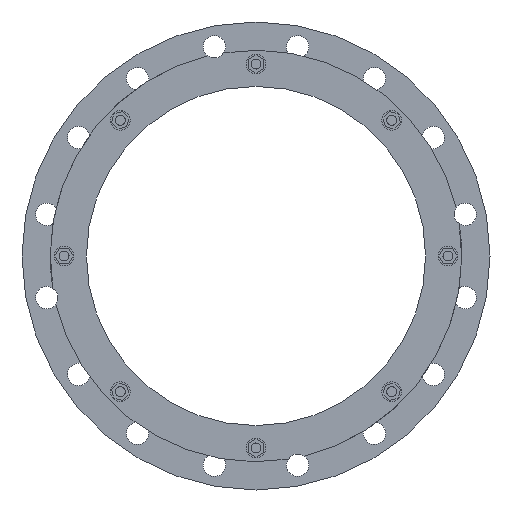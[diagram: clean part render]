
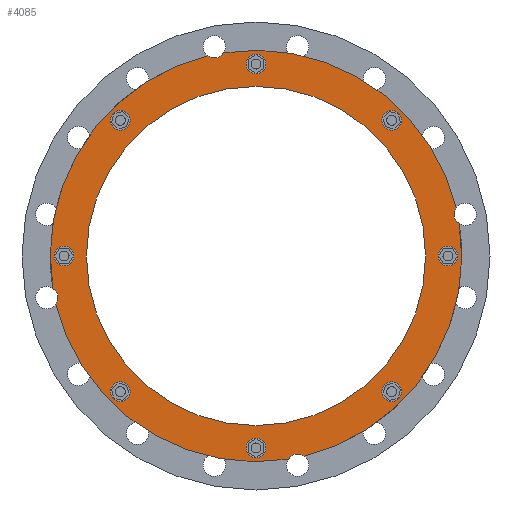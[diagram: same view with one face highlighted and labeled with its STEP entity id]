
A CAD part, front view. The second image highlights one B-rep face of the part: STEP entity #4085.
In plain terms, the highlighted planar face has unit normal (0, -1, 0).
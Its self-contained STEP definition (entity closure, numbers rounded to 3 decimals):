
#867=CARTESIAN_POINT('',(0.,-99.452,0.));
#868=DIRECTION('',(0.,-1.,0.));
#869=DIRECTION('',(0.972,0.,0.233));
#870=AXIS2_PLACEMENT_3D('',#867,#868,#869);
#890=CARTESIAN_POINT('',(0.,-99.452,0.));
#891=DIRECTION('',(0.,-1.,0.));
#892=DIRECTION('',(-0.233,0.,0.972));
#893=AXIS2_PLACEMENT_3D('',#890,#891,#892);
#899=CARTESIAN_POINT('',(0.,-99.452,0.));
#900=DIRECTION('',(0.,-1.,0.));
#901=DIRECTION('',(0.233,0.,-0.972));
#902=AXIS2_PLACEMENT_3D('',#899,#900,#901);
#931=CARTESIAN_POINT('',(0.,-99.452,0.));
#932=DIRECTION('',(0.,-1.,0.));
#933=DIRECTION('',(-0.972,0.,-0.233));
#934=AXIS2_PLACEMENT_3D('',#931,#932,#933);
#1430=CARTESIAN_POINT('',(231.75,-99.452,0.));
#1431=DIRECTION('',(0.,-1.,0.));
#1432=DIRECTION('',(0.,0.,-1.));
#1433=AXIS2_PLACEMENT_3D('',#1430,#1431,#1432);
#1435=CARTESIAN_POINT('',(231.75,-99.452,0.));
#1436=DIRECTION('',(0.,-1.,0.));
#1437=DIRECTION('',(0.,0.,1.));
#1438=AXIS2_PLACEMENT_3D('',#1435,#1436,#1437);
#1440=CARTESIAN_POINT('',(163.872,-99.452,163.872));
#1441=DIRECTION('',(0.,-1.,0.));
#1442=DIRECTION('',(0.707,0.,-0.707));
#1443=AXIS2_PLACEMENT_3D('',#1440,#1441,#1442);
#1445=CARTESIAN_POINT('',(163.872,-99.452,163.872));
#1446=DIRECTION('',(0.,-1.,0.));
#1447=DIRECTION('',(-0.707,0.,0.707));
#1448=AXIS2_PLACEMENT_3D('',#1445,#1446,#1447);
#1450=CARTESIAN_POINT('',(0.,-99.452,231.75));
#1451=DIRECTION('',(0.,-1.,0.));
#1452=DIRECTION('',(1.,0.,0.));
#1453=AXIS2_PLACEMENT_3D('',#1450,#1451,#1452);
#1455=CARTESIAN_POINT('',(0.,-99.452,231.75));
#1456=DIRECTION('',(0.,-1.,0.));
#1457=DIRECTION('',(-1.,0.,0.));
#1458=AXIS2_PLACEMENT_3D('',#1455,#1456,#1457);
#1460=CARTESIAN_POINT('',(-163.872,-99.452,163.872));
#1461=DIRECTION('',(0.,-1.,0.));
#1462=DIRECTION('',(0.707,0.,0.707));
#1463=AXIS2_PLACEMENT_3D('',#1460,#1461,#1462);
#1465=CARTESIAN_POINT('',(-163.872,-99.452,163.872));
#1466=DIRECTION('',(0.,-1.,0.));
#1467=DIRECTION('',(-0.707,0.,-0.707));
#1468=AXIS2_PLACEMENT_3D('',#1465,#1466,#1467);
#1470=CARTESIAN_POINT('',(-231.75,-99.452,0.));
#1471=DIRECTION('',(0.,-1.,0.));
#1472=DIRECTION('',(0.,0.,1.));
#1473=AXIS2_PLACEMENT_3D('',#1470,#1471,#1472);
#1475=CARTESIAN_POINT('',(-231.75,-99.452,0.));
#1476=DIRECTION('',(0.,-1.,0.));
#1477=DIRECTION('',(0.,0.,-1.));
#1478=AXIS2_PLACEMENT_3D('',#1475,#1476,#1477);
#1480=CARTESIAN_POINT('',(-163.872,-99.452,-163.872));
#1481=DIRECTION('',(0.,-1.,0.));
#1482=DIRECTION('',(-0.707,0.,0.707));
#1483=AXIS2_PLACEMENT_3D('',#1480,#1481,#1482);
#1485=CARTESIAN_POINT('',(-163.872,-99.452,-163.872));
#1486=DIRECTION('',(0.,-1.,0.));
#1487=DIRECTION('',(0.707,0.,-0.707));
#1488=AXIS2_PLACEMENT_3D('',#1485,#1486,#1487);
#1490=CARTESIAN_POINT('',(0.,-99.452,-231.75));
#1491=DIRECTION('',(0.,-1.,0.));
#1492=DIRECTION('',(-1.,0.,0.));
#1493=AXIS2_PLACEMENT_3D('',#1490,#1491,#1492);
#1495=CARTESIAN_POINT('',(0.,-99.452,-231.75));
#1496=DIRECTION('',(0.,-1.,0.));
#1497=DIRECTION('',(1.,0.,0.));
#1498=AXIS2_PLACEMENT_3D('',#1495,#1496,#1497);
#1500=CARTESIAN_POINT('',(163.872,-99.452,-163.872));
#1501=DIRECTION('',(0.,-1.,0.));
#1502=DIRECTION('',(-0.707,0.,-0.707));
#1503=AXIS2_PLACEMENT_3D('',#1500,#1501,#1502);
#1505=CARTESIAN_POINT('',(163.872,-99.452,-163.872));
#1506=DIRECTION('',(0.,-1.,0.));
#1507=DIRECTION('',(0.707,0.,0.707));
#1508=AXIS2_PLACEMENT_3D('',#1505,#1506,#1507);
#1510=CARTESIAN_POINT('',(50.236,-99.452,-252.552));
#1511=DIRECTION('',(0.,-1.,0.));
#1512=DIRECTION('',(0.573,0.,0.819));
#1513=AXIS2_PLACEMENT_3D('',#1510,#1511,#1512);
#1515=CARTESIAN_POINT('',(-252.552,-99.452,-50.236));
#1516=DIRECTION('',(0.,-1.,0.));
#1517=DIRECTION('',(0.819,0.,-0.573));
#1518=AXIS2_PLACEMENT_3D('',#1515,#1516,#1517);
#1520=CARTESIAN_POINT('',(-50.236,-99.452,252.552));
#1521=DIRECTION('',(0.,-1.,0.));
#1522=DIRECTION('',(-0.573,0.,-0.819));
#1523=AXIS2_PLACEMENT_3D('',#1520,#1521,#1522);
#1525=CARTESIAN_POINT('',(252.552,-99.452,50.236));
#1526=DIRECTION('',(0.,-1.,0.));
#1527=DIRECTION('',(-0.819,0.,0.573));
#1528=AXIS2_PLACEMENT_3D('',#1525,#1526,#1527);
#1530=CARTESIAN_POINT('',(0.,-99.452,0.));
#1531=DIRECTION('',(0.,1.,0.));
#1532=DIRECTION('',(1.,0.,0.));
#1533=AXIS2_PLACEMENT_3D('',#1530,#1531,#1532);
#1543=CARTESIAN_POINT('',(0.,-99.452,0.));
#1544=DIRECTION('',(0.,-1.,0.));
#1545=DIRECTION('',(1.,0.,0.));
#1546=AXIS2_PLACEMENT_3D('',#1543,#1544,#1545);
#2544=CARTESIAN_POINT('',(204.75,-99.452,0.));
#2546=VERTEX_POINT('',#2544);
#2552=CARTESIAN_POINT('',(-204.75,-99.452,0.));
#2554=VERTEX_POINT('',#2552);
#2593=CARTESIAN_POINT('',(231.75,-99.452,-12.));
#2594=CARTESIAN_POINT('',(231.75,-99.452,12.));
#2595=VERTEX_POINT('',#2593);
#2596=VERTEX_POINT('',#2594);
#2642=CARTESIAN_POINT('',(172.357,-99.452,155.387));
#2643=VERTEX_POINT('',#2642);
#2644=CARTESIAN_POINT('',(155.387,-99.452,172.357));
#2645=VERTEX_POINT('',#2644);
#2686=CARTESIAN_POINT('',(12.,-99.452,231.75));
#2687=VERTEX_POINT('',#2686);
#2688=CARTESIAN_POINT('',(-12.,-99.452,231.75));
#2689=VERTEX_POINT('',#2688);
#2730=CARTESIAN_POINT('',(-155.387,-99.452,172.357));
#2731=VERTEX_POINT('',#2730);
#2732=CARTESIAN_POINT('',(-172.357,-99.452,155.387));
#2733=VERTEX_POINT('',#2732);
#2774=CARTESIAN_POINT('',(-231.75,-99.452,12.));
#2775=VERTEX_POINT('',#2774);
#2776=CARTESIAN_POINT('',(-231.75,-99.452,-12.));
#2777=VERTEX_POINT('',#2776);
#2818=CARTESIAN_POINT('',(-172.357,-99.452,-155.387));
#2819=VERTEX_POINT('',#2818);
#2820=CARTESIAN_POINT('',(-155.387,-99.452,-172.357));
#2821=VERTEX_POINT('',#2820);
#2862=CARTESIAN_POINT('',(-12.,-99.452,-231.75));
#2863=VERTEX_POINT('',#2862);
#2864=CARTESIAN_POINT('',(12.,-99.452,-231.75));
#2865=VERTEX_POINT('',#2864);
#2906=CARTESIAN_POINT('',(155.387,-99.452,-172.357));
#2907=VERTEX_POINT('',#2906);
#2908=CARTESIAN_POINT('',(172.357,-99.452,-155.387));
#2909=VERTEX_POINT('',#2908);
#3108=CARTESIAN_POINT('',(241.489,-99.452,57.972));
#3109=CARTESIAN_POINT('',(245.292,-99.452,38.854));
#3110=VERTEX_POINT('',#3108);
#3111=VERTEX_POINT('',#3109);
#3114=CARTESIAN_POINT('',(-57.972,-99.452,241.489));
#3116=VERTEX_POINT('',#3114);
#3118=CARTESIAN_POINT('',(-38.854,-99.452,245.292));
#3120=VERTEX_POINT('',#3118);
#3124=CARTESIAN_POINT('',(-241.489,-99.452,-57.972));
#3125=VERTEX_POINT('',#3124);
#3126=CARTESIAN_POINT('',(-245.292,-99.452,-38.854));
#3127=VERTEX_POINT('',#3126);
#3130=CARTESIAN_POINT('',(57.972,-99.452,-241.489));
#3131=VERTEX_POINT('',#3130);
#3132=CARTESIAN_POINT('',(38.854,-99.452,-245.292));
#3133=VERTEX_POINT('',#3132);
#4015=CARTESIAN_POINT('',(0.,-99.452,0.));
#4016=DIRECTION('',(0.,1.,0.));
#4017=DIRECTION('',(-1.,0.,0.));
#4018=AXIS2_PLACEMENT_3D('',#4015,#4016,#4017);
#4019=PLANE('',#4018);
#4020=ORIENTED_EDGE('',*,*,#3644,.T.);
#4021=ORIENTED_EDGE('',*,*,#3709,.F.);
#4023=ORIENTED_EDGE('',*,*,#4022,.T.);
#4024=ORIENTED_EDGE('',*,*,#3679,.F.);
#4025=ORIENTED_EDGE('',*,*,#3723,.T.);
#4026=ORIENTED_EDGE('',*,*,#3662,.F.);
#4028=ORIENTED_EDGE('',*,*,#4027,.T.);
#4029=ORIENTED_EDGE('',*,*,#3690,.F.);
#4030=EDGE_LOOP('',(#4020,#4021,#4023,#4024,#4025,#4026,#4028,#4029));
#4031=FACE_OUTER_BOUND('',#4030,.F.);
#4032=ORIENTED_EDGE('',*,*,#4005,.T.);
#4034=ORIENTED_EDGE('',*,*,#4033,.T.);
#4035=EDGE_LOOP('',(#4032,#4034));
#4036=FACE_BOUND('',#4035,.F.);
#4038=ORIENTED_EDGE('',*,*,#4037,.T.);
#4040=ORIENTED_EDGE('',*,*,#4039,.T.);
#4041=EDGE_LOOP('',(#4038,#4040));
#4042=FACE_BOUND('',#4041,.F.);
#4044=ORIENTED_EDGE('',*,*,#4043,.T.);
#4046=ORIENTED_EDGE('',*,*,#4045,.T.);
#4047=EDGE_LOOP('',(#4044,#4046));
#4048=FACE_BOUND('',#4047,.F.);
#4050=ORIENTED_EDGE('',*,*,#4049,.T.);
#4052=ORIENTED_EDGE('',*,*,#4051,.T.);
#4053=EDGE_LOOP('',(#4050,#4052));
#4054=FACE_BOUND('',#4053,.F.);
#4056=ORIENTED_EDGE('',*,*,#4055,.T.);
#4058=ORIENTED_EDGE('',*,*,#4057,.T.);
#4059=EDGE_LOOP('',(#4056,#4058));
#4060=FACE_BOUND('',#4059,.F.);
#4062=ORIENTED_EDGE('',*,*,#4061,.T.);
#4064=ORIENTED_EDGE('',*,*,#4063,.T.);
#4065=EDGE_LOOP('',(#4062,#4064));
#4066=FACE_BOUND('',#4065,.F.);
#4068=ORIENTED_EDGE('',*,*,#4067,.T.);
#4070=ORIENTED_EDGE('',*,*,#4069,.T.);
#4071=EDGE_LOOP('',(#4068,#4070));
#4072=FACE_BOUND('',#4071,.F.);
#4074=ORIENTED_EDGE('',*,*,#4073,.T.);
#4076=ORIENTED_EDGE('',*,*,#4075,.T.);
#4077=EDGE_LOOP('',(#4074,#4076));
#4078=FACE_BOUND('',#4077,.F.);
#4080=ORIENTED_EDGE('',*,*,#4079,.F.);
#4082=ORIENTED_EDGE('',*,*,#4081,.T.);
#4083=EDGE_LOOP('',(#4080,#4082));
#4084=FACE_BOUND('',#4083,.F.);
#4085=ADVANCED_FACE('',(#4031,#4036,#4042,#4048,#4054,#4060,#4066,#4072,#4078,
#4084),#4019,.F.);
#871=CIRCLE('',#870,248.35);
#894=CIRCLE('',#893,248.35);
#903=CIRCLE('',#902,248.35);
#935=CIRCLE('',#934,248.35);
#1434=CIRCLE('',#1433,12.);
#1439=CIRCLE('',#1438,12.);
#1444=CIRCLE('',#1443,12.);
#1449=CIRCLE('',#1448,12.);
#1454=CIRCLE('',#1453,12.);
#1459=CIRCLE('',#1458,12.);
#1464=CIRCLE('',#1463,12.);
#1469=CIRCLE('',#1468,12.);
#1474=CIRCLE('',#1473,12.);
#1479=CIRCLE('',#1478,12.);
#1484=CIRCLE('',#1483,12.);
#1489=CIRCLE('',#1488,12.);
#1494=CIRCLE('',#1493,12.);
#1499=CIRCLE('',#1498,12.);
#1504=CIRCLE('',#1503,12.);
#1509=CIRCLE('',#1508,12.);
#1514=CIRCLE('',#1513,13.5);
#1519=CIRCLE('',#1518,13.5);
#1524=CIRCLE('',#1523,13.5);
#1529=CIRCLE('',#1528,13.5);
#1534=CIRCLE('',#1533,204.75);
#1547=CIRCLE('',#1546,204.75);
#3644=EDGE_CURVE('',#3131,#3133,#1514,.T.);
#3662=EDGE_CURVE('',#3110,#3120,#871,.T.);
#3679=EDGE_CURVE('',#3116,#3127,#894,.T.);
#3690=EDGE_CURVE('',#3131,#3111,#903,.T.);
#3709=EDGE_CURVE('',#3125,#3133,#935,.T.);
#3723=EDGE_CURVE('',#3116,#3120,#1524,.T.);
#4005=EDGE_CURVE('',#2595,#2596,#1434,.T.);
#4022=EDGE_CURVE('',#3125,#3127,#1519,.T.);
#4027=EDGE_CURVE('',#3110,#3111,#1529,.T.);
#4033=EDGE_CURVE('',#2596,#2595,#1439,.T.);
#4037=EDGE_CURVE('',#2643,#2645,#1444,.T.);
#4039=EDGE_CURVE('',#2645,#2643,#1449,.T.);
#4043=EDGE_CURVE('',#2687,#2689,#1454,.T.);
#4045=EDGE_CURVE('',#2689,#2687,#1459,.T.);
#4049=EDGE_CURVE('',#2731,#2733,#1464,.T.);
#4051=EDGE_CURVE('',#2733,#2731,#1469,.T.);
#4055=EDGE_CURVE('',#2775,#2777,#1474,.T.);
#4057=EDGE_CURVE('',#2777,#2775,#1479,.T.);
#4061=EDGE_CURVE('',#2819,#2821,#1484,.T.);
#4063=EDGE_CURVE('',#2821,#2819,#1489,.T.);
#4067=EDGE_CURVE('',#2863,#2865,#1494,.T.);
#4069=EDGE_CURVE('',#2865,#2863,#1499,.T.);
#4073=EDGE_CURVE('',#2907,#2909,#1504,.T.);
#4075=EDGE_CURVE('',#2909,#2907,#1509,.T.);
#4079=EDGE_CURVE('',#2546,#2554,#1534,.T.);
#4081=EDGE_CURVE('',#2546,#2554,#1547,.T.);
